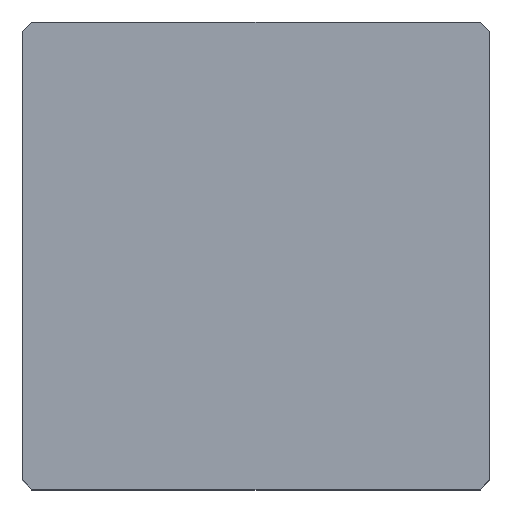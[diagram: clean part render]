
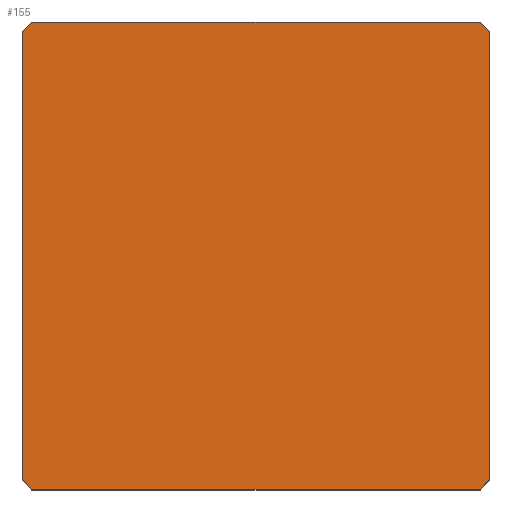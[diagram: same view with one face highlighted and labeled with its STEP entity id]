
A CAD part, top view. The second image highlights one B-rep face of the part: STEP entity #155.
In plain terms, the highlighted planar face has unit normal (0, 0, 1).
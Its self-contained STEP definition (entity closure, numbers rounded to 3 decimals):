
#39 = EDGE_CURVE('',#40,#42,#44,.T.);
#40 = VERTEX_POINT('',#41);
#41 = CARTESIAN_POINT('',(-10.,-9.6,21.25));
#42 = VERTEX_POINT('',#43);
#43 = CARTESIAN_POINT('',(-10.,9.6,21.25));
#44 = SURFACE_CURVE('',#45,(#49,#61),.PCURVE_S1.);
#45 = LINE('',#46,#47);
#46 = CARTESIAN_POINT('',(-10.,-10.,21.25));
#47 = VECTOR('',#48,1.);
#48 = DIRECTION('',(-0.,1.,0.));
#49 = PCURVE('',#50,#55);
#50 = PLANE('',#51);
#51 = AXIS2_PLACEMENT_3D('',#52,#53,#54);
#52 = CARTESIAN_POINT('',(-10.,-10.,0.));
#53 = DIRECTION('',(1.,0.,-0.));
#54 = DIRECTION('',(0.,0.,1.));
#55 = DEFINITIONAL_REPRESENTATION('',(#56),#60);
#56 = LINE('',#57,#58);
#57 = CARTESIAN_POINT('',(21.25,0.));
#58 = VECTOR('',#59,1.);
#59 = DIRECTION('',(0.,-1.));
#60 = ( GEOMETRIC_REPRESENTATION_CONTEXT(2) 
PARAMETRIC_REPRESENTATION_CONTEXT() REPRESENTATION_CONTEXT('2D SPACE',''
  ) );
#61 = PCURVE('',#62,#67);
#62 = PLANE('',#63);
#63 = AXIS2_PLACEMENT_3D('',#64,#65,#66);
#64 = CARTESIAN_POINT('',(-10.,-10.,21.25));
#65 = DIRECTION('',(0.,0.,1.));
#66 = DIRECTION('',(1.,0.,-0.));
#67 = DEFINITIONAL_REPRESENTATION('',(#68),#72);
#68 = LINE('',#69,#70);
#69 = CARTESIAN_POINT('',(0.,0.));
#70 = VECTOR('',#71,1.);
#71 = DIRECTION('',(0.,1.));
#72 = ( GEOMETRIC_REPRESENTATION_CONTEXT(2) 
PARAMETRIC_REPRESENTATION_CONTEXT() REPRESENTATION_CONTEXT('2D SPACE',''
  ) );
#90 = PLANE('',#91);
#91 = AXIS2_PLACEMENT_3D('',#92,#93,#94);
#92 = CARTESIAN_POINT('',(-9.8,-9.8,0.));
#93 = DIRECTION('',(-0.707,-0.707,0.));
#94 = DIRECTION('',(-0.,-0.,-1.));
#144 = PLANE('',#145);
#145 = AXIS2_PLACEMENT_3D('',#146,#147,#148);
#146 = CARTESIAN_POINT('',(-9.8,9.8,0.));
#147 = DIRECTION('',(0.707,-0.707,0.));
#148 = DIRECTION('',(-0.,-0.,-1.));
#155 = ADVANCED_FACE('',(#156),#62,.T.);
#156 = FACE_BOUND('',#157,.T.);
#157 = EDGE_LOOP('',(#158,#159,#182,#210,#238,#266,#294,#322));
#158 = ORIENTED_EDGE('',*,*,#39,.F.);
#159 = ORIENTED_EDGE('',*,*,#160,.T.);
#160 = EDGE_CURVE('',#40,#161,#163,.T.);
#161 = VERTEX_POINT('',#162);
#162 = CARTESIAN_POINT('',(-9.6,-10.,21.25));
#163 = SURFACE_CURVE('',#164,(#168,#175),.PCURVE_S1.);
#164 = LINE('',#165,#166);
#165 = CARTESIAN_POINT('',(-9.8,-9.8,21.25));
#166 = VECTOR('',#167,1.);
#167 = DIRECTION('',(0.707,-0.707,0.));
#168 = PCURVE('',#62,#169);
#169 = DEFINITIONAL_REPRESENTATION('',(#170),#174);
#170 = LINE('',#171,#172);
#171 = CARTESIAN_POINT('',(0.2,0.2));
#172 = VECTOR('',#173,1.);
#173 = DIRECTION('',(0.707,-0.707));
#174 = ( GEOMETRIC_REPRESENTATION_CONTEXT(2) 
PARAMETRIC_REPRESENTATION_CONTEXT() REPRESENTATION_CONTEXT('2D SPACE',''
  ) );
#175 = PCURVE('',#90,#176);
#176 = DEFINITIONAL_REPRESENTATION('',(#177),#181);
#177 = LINE('',#178,#179);
#178 = CARTESIAN_POINT('',(-21.25,0.));
#179 = VECTOR('',#180,1.);
#180 = DIRECTION('',(-0.,1.));
#181 = ( GEOMETRIC_REPRESENTATION_CONTEXT(2) 
PARAMETRIC_REPRESENTATION_CONTEXT() REPRESENTATION_CONTEXT('2D SPACE',''
  ) );
#182 = ORIENTED_EDGE('',*,*,#183,.T.);
#183 = EDGE_CURVE('',#161,#184,#186,.T.);
#184 = VERTEX_POINT('',#185);
#185 = CARTESIAN_POINT('',(9.6,-10.,21.25));
#186 = SURFACE_CURVE('',#187,(#191,#198),.PCURVE_S1.);
#187 = LINE('',#188,#189);
#188 = CARTESIAN_POINT('',(-10.,-10.,21.25));
#189 = VECTOR('',#190,1.);
#190 = DIRECTION('',(1.,0.,-0.));
#191 = PCURVE('',#62,#192);
#192 = DEFINITIONAL_REPRESENTATION('',(#193),#197);
#193 = LINE('',#194,#195);
#194 = CARTESIAN_POINT('',(0.,0.));
#195 = VECTOR('',#196,1.);
#196 = DIRECTION('',(1.,0.));
#197 = ( GEOMETRIC_REPRESENTATION_CONTEXT(2) 
PARAMETRIC_REPRESENTATION_CONTEXT() REPRESENTATION_CONTEXT('2D SPACE',''
  ) );
#198 = PCURVE('',#199,#204);
#199 = PLANE('',#200);
#200 = AXIS2_PLACEMENT_3D('',#201,#202,#203);
#201 = CARTESIAN_POINT('',(-10.,-10.,0.));
#202 = DIRECTION('',(-0.,1.,0.));
#203 = DIRECTION('',(0.,0.,1.));
#204 = DEFINITIONAL_REPRESENTATION('',(#205),#209);
#205 = LINE('',#206,#207);
#206 = CARTESIAN_POINT('',(21.25,0.));
#207 = VECTOR('',#208,1.);
#208 = DIRECTION('',(0.,1.));
#209 = ( GEOMETRIC_REPRESENTATION_CONTEXT(2) 
PARAMETRIC_REPRESENTATION_CONTEXT() REPRESENTATION_CONTEXT('2D SPACE',''
  ) );
#210 = ORIENTED_EDGE('',*,*,#211,.F.);
#211 = EDGE_CURVE('',#212,#184,#214,.T.);
#212 = VERTEX_POINT('',#213);
#213 = CARTESIAN_POINT('',(10.,-9.6,21.25));
#214 = SURFACE_CURVE('',#215,(#219,#226),.PCURVE_S1.);
#215 = LINE('',#216,#217);
#216 = CARTESIAN_POINT('',(4.8,-14.8,21.25));
#217 = VECTOR('',#218,1.);
#218 = DIRECTION('',(-0.707,-0.707,0.));
#219 = PCURVE('',#62,#220);
#220 = DEFINITIONAL_REPRESENTATION('',(#221),#225);
#221 = LINE('',#222,#223);
#222 = CARTESIAN_POINT('',(14.8,-4.8));
#223 = VECTOR('',#224,1.);
#224 = DIRECTION('',(-0.707,-0.707));
#225 = ( GEOMETRIC_REPRESENTATION_CONTEXT(2) 
PARAMETRIC_REPRESENTATION_CONTEXT() REPRESENTATION_CONTEXT('2D SPACE',''
  ) );
#226 = PCURVE('',#227,#232);
#227 = PLANE('',#228);
#228 = AXIS2_PLACEMENT_3D('',#229,#230,#231);
#229 = CARTESIAN_POINT('',(9.8,-9.8,0.));
#230 = DIRECTION('',(-0.707,0.707,0.));
#231 = DIRECTION('',(-0.,-0.,-1.));
#232 = DEFINITIONAL_REPRESENTATION('',(#233),#237);
#233 = LINE('',#234,#235);
#234 = CARTESIAN_POINT('',(-21.25,7.071));
#235 = VECTOR('',#236,1.);
#236 = DIRECTION('',(-0.,1.));
#237 = ( GEOMETRIC_REPRESENTATION_CONTEXT(2) 
PARAMETRIC_REPRESENTATION_CONTEXT() REPRESENTATION_CONTEXT('2D SPACE',''
  ) );
#238 = ORIENTED_EDGE('',*,*,#239,.T.);
#239 = EDGE_CURVE('',#212,#240,#242,.T.);
#240 = VERTEX_POINT('',#241);
#241 = CARTESIAN_POINT('',(10.,9.6,21.25));
#242 = SURFACE_CURVE('',#243,(#247,#254),.PCURVE_S1.);
#243 = LINE('',#244,#245);
#244 = CARTESIAN_POINT('',(10.,-10.,21.25));
#245 = VECTOR('',#246,1.);
#246 = DIRECTION('',(-0.,1.,0.));
#247 = PCURVE('',#62,#248);
#248 = DEFINITIONAL_REPRESENTATION('',(#249),#253);
#249 = LINE('',#250,#251);
#250 = CARTESIAN_POINT('',(20.,0.));
#251 = VECTOR('',#252,1.);
#252 = DIRECTION('',(0.,1.));
#253 = ( GEOMETRIC_REPRESENTATION_CONTEXT(2) 
PARAMETRIC_REPRESENTATION_CONTEXT() REPRESENTATION_CONTEXT('2D SPACE',''
  ) );
#254 = PCURVE('',#255,#260);
#255 = PLANE('',#256);
#256 = AXIS2_PLACEMENT_3D('',#257,#258,#259);
#257 = CARTESIAN_POINT('',(10.,-10.,0.));
#258 = DIRECTION('',(1.,0.,-0.));
#259 = DIRECTION('',(0.,0.,1.));
#260 = DEFINITIONAL_REPRESENTATION('',(#261),#265);
#261 = LINE('',#262,#263);
#262 = CARTESIAN_POINT('',(21.25,0.));
#263 = VECTOR('',#264,1.);
#264 = DIRECTION('',(0.,-1.));
#265 = ( GEOMETRIC_REPRESENTATION_CONTEXT(2) 
PARAMETRIC_REPRESENTATION_CONTEXT() REPRESENTATION_CONTEXT('2D SPACE',''
  ) );
#266 = ORIENTED_EDGE('',*,*,#267,.T.);
#267 = EDGE_CURVE('',#240,#268,#270,.T.);
#268 = VERTEX_POINT('',#269);
#269 = CARTESIAN_POINT('',(9.6,10.,21.25));
#270 = SURFACE_CURVE('',#271,(#275,#282),.PCURVE_S1.);
#271 = LINE('',#272,#273);
#272 = CARTESIAN_POINT('',(9.8,9.8,21.25));
#273 = VECTOR('',#274,1.);
#274 = DIRECTION('',(-0.707,0.707,0.));
#275 = PCURVE('',#62,#276);
#276 = DEFINITIONAL_REPRESENTATION('',(#277),#281);
#277 = LINE('',#278,#279);
#278 = CARTESIAN_POINT('',(19.8,19.8));
#279 = VECTOR('',#280,1.);
#280 = DIRECTION('',(-0.707,0.707));
#281 = ( GEOMETRIC_REPRESENTATION_CONTEXT(2) 
PARAMETRIC_REPRESENTATION_CONTEXT() REPRESENTATION_CONTEXT('2D SPACE',''
  ) );
#282 = PCURVE('',#283,#288);
#283 = PLANE('',#284);
#284 = AXIS2_PLACEMENT_3D('',#285,#286,#287);
#285 = CARTESIAN_POINT('',(9.8,9.8,0.));
#286 = DIRECTION('',(0.707,0.707,0.));
#287 = DIRECTION('',(-0.,0.,-1.));
#288 = DEFINITIONAL_REPRESENTATION('',(#289),#293);
#289 = LINE('',#290,#291);
#290 = CARTESIAN_POINT('',(-21.25,0.));
#291 = VECTOR('',#292,1.);
#292 = DIRECTION('',(-0.,1.));
#293 = ( GEOMETRIC_REPRESENTATION_CONTEXT(2) 
PARAMETRIC_REPRESENTATION_CONTEXT() REPRESENTATION_CONTEXT('2D SPACE',''
  ) );
#294 = ORIENTED_EDGE('',*,*,#295,.F.);
#295 = EDGE_CURVE('',#296,#268,#298,.T.);
#296 = VERTEX_POINT('',#297);
#297 = CARTESIAN_POINT('',(-9.6,10.,21.25));
#298 = SURFACE_CURVE('',#299,(#303,#310),.PCURVE_S1.);
#299 = LINE('',#300,#301);
#300 = CARTESIAN_POINT('',(-10.,10.,21.25));
#301 = VECTOR('',#302,1.);
#302 = DIRECTION('',(1.,0.,-0.));
#303 = PCURVE('',#62,#304);
#304 = DEFINITIONAL_REPRESENTATION('',(#305),#309);
#305 = LINE('',#306,#307);
#306 = CARTESIAN_POINT('',(0.,20.));
#307 = VECTOR('',#308,1.);
#308 = DIRECTION('',(1.,0.));
#309 = ( GEOMETRIC_REPRESENTATION_CONTEXT(2) 
PARAMETRIC_REPRESENTATION_CONTEXT() REPRESENTATION_CONTEXT('2D SPACE',''
  ) );
#310 = PCURVE('',#311,#316);
#311 = PLANE('',#312);
#312 = AXIS2_PLACEMENT_3D('',#313,#314,#315);
#313 = CARTESIAN_POINT('',(-10.,10.,0.));
#314 = DIRECTION('',(-0.,1.,0.));
#315 = DIRECTION('',(0.,0.,1.));
#316 = DEFINITIONAL_REPRESENTATION('',(#317),#321);
#317 = LINE('',#318,#319);
#318 = CARTESIAN_POINT('',(21.25,0.));
#319 = VECTOR('',#320,1.);
#320 = DIRECTION('',(0.,1.));
#321 = ( GEOMETRIC_REPRESENTATION_CONTEXT(2) 
PARAMETRIC_REPRESENTATION_CONTEXT() REPRESENTATION_CONTEXT('2D SPACE',''
  ) );
#322 = ORIENTED_EDGE('',*,*,#323,.F.);
#323 = EDGE_CURVE('',#42,#296,#324,.T.);
#324 = SURFACE_CURVE('',#325,(#329,#336),.PCURVE_S1.);
#325 = LINE('',#326,#327);
#326 = CARTESIAN_POINT('',(-14.8,4.8,21.25));
#327 = VECTOR('',#328,1.);
#328 = DIRECTION('',(0.707,0.707,-0.));
#329 = PCURVE('',#62,#330);
#330 = DEFINITIONAL_REPRESENTATION('',(#331),#335);
#331 = LINE('',#332,#333);
#332 = CARTESIAN_POINT('',(-4.8,14.8));
#333 = VECTOR('',#334,1.);
#334 = DIRECTION('',(0.707,0.707));
#335 = ( GEOMETRIC_REPRESENTATION_CONTEXT(2) 
PARAMETRIC_REPRESENTATION_CONTEXT() REPRESENTATION_CONTEXT('2D SPACE',''
  ) );
#336 = PCURVE('',#144,#337);
#337 = DEFINITIONAL_REPRESENTATION('',(#338),#342);
#338 = LINE('',#339,#340);
#339 = CARTESIAN_POINT('',(-21.25,-7.071));
#340 = VECTOR('',#341,1.);
#341 = DIRECTION('',(-0.,1.));
#342 = ( GEOMETRIC_REPRESENTATION_CONTEXT(2) 
PARAMETRIC_REPRESENTATION_CONTEXT() REPRESENTATION_CONTEXT('2D SPACE',''
  ) );
